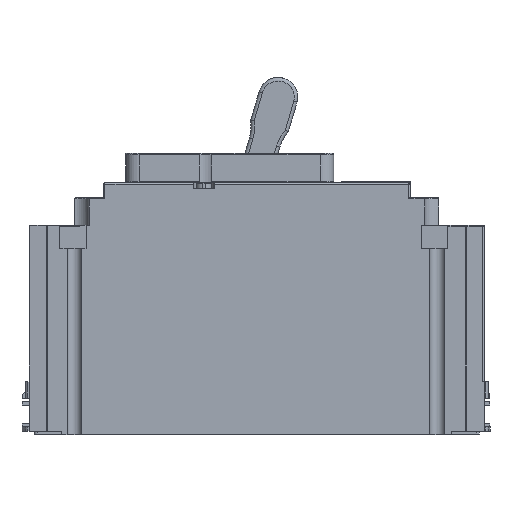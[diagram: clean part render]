
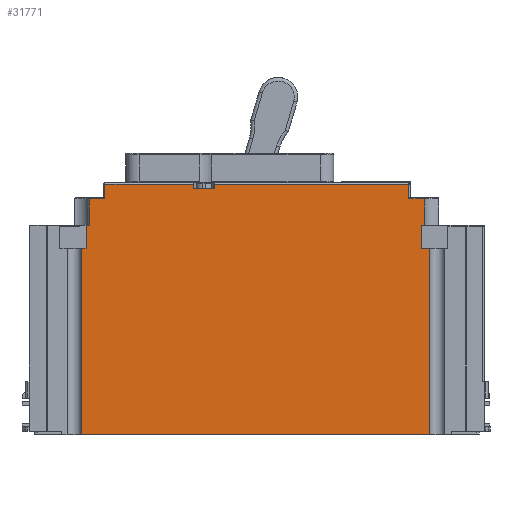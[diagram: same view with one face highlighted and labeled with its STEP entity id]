
A CAD part, left-side view. The second image highlights one B-rep face of the part: STEP entity #31771.
In plain terms, the highlighted planar face has unit normal (-1, 0, 0).
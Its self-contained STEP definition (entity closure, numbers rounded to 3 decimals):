
#1190=DIRECTION('',(0.,0.,1.));
#1191=VECTOR('',#1190,63.88);
#1192=CARTESIAN_POINT('',(0.,21.14,0.));
#1193=LINE('',#1192,#1191);
#1204=DIRECTION('',(0.,1.,0.));
#1205=VECTOR('',#1204,2.813);
#1206=CARTESIAN_POINT('',(0.,21.14,63.88));
#1207=LINE('',#1206,#1205);
#1232=DIRECTION('',(0.,1.,0.));
#1233=VECTOR('',#1232,0.997);
#1234=CARTESIAN_POINT('',(0.,22.956,71.88));
#1235=LINE('',#1234,#1233);
#1236=DIRECTION('',(0.,0.,-1.));
#1237=VECTOR('',#1236,8.);
#1238=CARTESIAN_POINT('',(0.,23.953,71.88));
#1239=LINE('',#1238,#1237);
#1240=DIRECTION('',(0.,1.,0.));
#1241=VECTOR('',#1240,119.5);
#1242=CARTESIAN_POINT('',(0.,21.14,0.));
#1243=LINE('',#1242,#1241);
#1244=DIRECTION('',(0.,0.,1.));
#1245=VECTOR('',#1244,8.);
#1246=CARTESIAN_POINT('',(0.,139.103,63.88));
#1247=LINE('',#1246,#1245);
#1260=DIRECTION('',(0.,1.,0.));
#1261=VECTOR('',#1260,5.428);
#1262=CARTESIAN_POINT('',(0.,132.643,80.83));
#1263=LINE('',#1262,#1261);
#1336=DIRECTION('',(0.,0.,-1.));
#1337=VECTOR('',#1336,8.95);
#1338=CARTESIAN_POINT('',(0.,138.07,80.83));
#1339=LINE('',#1338,#1337);
#1381=DIRECTION('',(0.,1.,0.));
#1382=VECTOR('',#1381,1.537);
#1383=CARTESIAN_POINT('',(0.,139.103,63.88));
#1384=LINE('',#1383,#1382);
#11738=DIRECTION('',(0.,0.,1.));
#11739=VECTOR('',#11738,8.95);
#11740=CARTESIAN_POINT('',(0.,22.956,71.88));
#11741=LINE('',#11740,#11739);
#11760=DIRECTION('',(0.,1.,0.));
#11761=VECTOR('',#11760,5.428);
#11762=CARTESIAN_POINT('',(0.,22.956,80.83));
#11763=LINE('',#11762,#11761);
#11784=DIRECTION('',(0.,0.,1.));
#11785=VECTOR('',#11784,5.);
#11786=CARTESIAN_POINT('',(0.,28.383,80.83));
#11787=LINE('',#11786,#11785);
#11811=DIRECTION('',(0.,1.,0.));
#11812=VECTOR('',#11811,66.72);
#11813=CARTESIAN_POINT('',(0.,28.383,85.83));
#11814=LINE('',#11813,#11812);
#11820=DIRECTION('',(0.,0.,-1.));
#11821=VECTOR('',#11820,1.5);
#11822=CARTESIAN_POINT('',(0.,95.103,85.83));
#11823=LINE('',#11822,#11821);
#11832=DIRECTION('',(0.,1.,0.));
#11833=VECTOR('',#11832,7.);
#11834=CARTESIAN_POINT('',(0.,95.103,84.33));
#11835=LINE('',#11834,#11833);
#11899=DIRECTION('',(0.,0.,1.));
#11900=VECTOR('',#11899,1.5);
#11901=CARTESIAN_POINT('',(0.,102.103,84.33));
#11902=LINE('',#11901,#11900);
#11903=DIRECTION('',(0.,1.,0.));
#11904=VECTOR('',#11903,30.54);
#11905=CARTESIAN_POINT('',(0.,102.103,85.83));
#11906=LINE('',#11905,#11904);
#11930=DIRECTION('',(0.,0.,-1.));
#11931=VECTOR('',#11930,5.);
#11932=CARTESIAN_POINT('',(0.,132.643,85.83));
#11933=LINE('',#11932,#11931);
#23566=DIRECTION('',(0.,0.,-1.));
#23567=VECTOR('',#23566,63.88);
#23568=CARTESIAN_POINT('',(0.,140.64,63.88));
#23569=LINE('',#23568,#23567);
#23574=DIRECTION('',(0.,1.,0.));
#23575=VECTOR('',#23574,1.033);
#23576=CARTESIAN_POINT('',(0.,138.07,
71.88));
#23577=LINE('',#23576,#23575);
#23921=CARTESIAN_POINT('',(0.,140.64,0.));
#23922=VERTEX_POINT('',#23921);
#23923=CARTESIAN_POINT('',(0.,21.14,0.));
#23924=VERTEX_POINT('',#23923);
#24243=CARTESIAN_POINT('',(0.,21.14,63.88));
#24245=VERTEX_POINT('',#24243);
#24246=CARTESIAN_POINT('',(0.,23.953,63.88));
#24247=VERTEX_POINT('',#24246);
#24256=CARTESIAN_POINT('',(0.,132.643,80.83));
#24257=CARTESIAN_POINT('',(0.,138.07,80.83));
#24258=VERTEX_POINT('',#24256);
#24259=VERTEX_POINT('',#24257);
#24260=CARTESIAN_POINT('',(0.,132.643,85.83));
#24261=VERTEX_POINT('',#24260);
#24262=CARTESIAN_POINT('',(0.,102.103,85.83));
#24263=VERTEX_POINT('',#24262);
#24264=CARTESIAN_POINT('',(0.,102.103,84.33));
#24265=VERTEX_POINT('',#24264);
#24266=CARTESIAN_POINT('',(0.,95.103,84.33));
#24267=VERTEX_POINT('',#24266);
#24268=CARTESIAN_POINT('',(0.,95.103,85.83));
#24269=VERTEX_POINT('',#24268);
#24270=CARTESIAN_POINT('',(0.,28.383,85.83));
#24271=VERTEX_POINT('',#24270);
#24272=CARTESIAN_POINT('',(0.,28.383,80.83));
#24273=VERTEX_POINT('',#24272);
#24274=CARTESIAN_POINT('',(0.,22.956,80.83));
#24275=VERTEX_POINT('',#24274);
#24276=CARTESIAN_POINT('',(0.,22.956,71.88));
#24277=VERTEX_POINT('',#24276);
#24278=CARTESIAN_POINT('',(0.,23.953,71.88));
#24279=VERTEX_POINT('',#24278);
#24280=CARTESIAN_POINT('',(0.,140.64,63.88));
#24281=VERTEX_POINT('',#24280);
#24282=CARTESIAN_POINT('',(0.,139.103,63.88));
#24283=VERTEX_POINT('',#24282);
#24284=CARTESIAN_POINT('',(0.,139.103,71.88));
#24285=VERTEX_POINT('',#24284);
#24286=CARTESIAN_POINT('',(0.,138.07,
71.88));
#24287=VERTEX_POINT('',#24286);
#31727=CARTESIAN_POINT('',(0.,80.89,42.915));
#31728=DIRECTION('',(1.,0.,0.));
#31729=DIRECTION('',(0.,-1.,0.));
#31730=AXIS2_PLACEMENT_3D('',#31727,#31728,#31729);
#31731=PLANE('',#31730);
#31733=ORIENTED_EDGE('',*,*,#31732,.F.);
#31735=ORIENTED_EDGE('',*,*,#31734,.F.);
#31737=ORIENTED_EDGE('',*,*,#31736,.F.);
#31739=ORIENTED_EDGE('',*,*,#31738,.F.);
#31741=ORIENTED_EDGE('',*,*,#31740,.F.);
#31743=ORIENTED_EDGE('',*,*,#31742,.F.);
#31745=ORIENTED_EDGE('',*,*,#31744,.F.);
#31747=ORIENTED_EDGE('',*,*,#31746,.F.);
#31749=ORIENTED_EDGE('',*,*,#31748,.F.);
#31751=ORIENTED_EDGE('',*,*,#31750,.F.);
#31753=ORIENTED_EDGE('',*,*,#31752,.T.);
#31755=ORIENTED_EDGE('',*,*,#31754,.T.);
#31756=ORIENTED_EDGE('',*,*,#31711,.F.);
#31757=ORIENTED_EDGE('',*,*,#31699,.F.);
#31758=ORIENTED_EDGE('',*,*,#30283,.T.);
#31760=ORIENTED_EDGE('',*,*,#31759,.F.);
#31762=ORIENTED_EDGE('',*,*,#31761,.F.);
#31764=ORIENTED_EDGE('',*,*,#31763,.T.);
#31766=ORIENTED_EDGE('',*,*,#31765,.F.);
#31768=ORIENTED_EDGE('',*,*,#31767,.F.);
#31769=EDGE_LOOP('',(#31733,#31735,#31737,#31739,#31741,#31743,#31745,#31747,
#31749,#31751,#31753,#31755,#31756,#31757,#31758,#31760,#31762,#31764,#31766,
#31768));
#31770=FACE_OUTER_BOUND('',#31769,.F.);
#31771=ADVANCED_FACE('',(#31770),#31731,.F.);
#30283=EDGE_CURVE('',#23924,#23922,#1243,.T.);
#31699=EDGE_CURVE('',#23924,#24245,#1193,.T.);
#31711=EDGE_CURVE('',#24245,#24247,#1207,.T.);
#31732=EDGE_CURVE('',#24258,#24259,#1263,.T.);
#31734=EDGE_CURVE('',#24261,#24258,#11933,.T.);
#31736=EDGE_CURVE('',#24263,#24261,#11906,.T.);
#31738=EDGE_CURVE('',#24265,#24263,#11902,.T.);
#31740=EDGE_CURVE('',#24267,#24265,#11835,.T.);
#31742=EDGE_CURVE('',#24269,#24267,#11823,.T.);
#31744=EDGE_CURVE('',#24271,#24269,#11814,.T.);
#31746=EDGE_CURVE('',#24273,#24271,#11787,.T.);
#31748=EDGE_CURVE('',#24275,#24273,#11763,.T.);
#31750=EDGE_CURVE('',#24277,#24275,#11741,.T.);
#31752=EDGE_CURVE('',#24277,#24279,#1235,.T.);
#31754=EDGE_CURVE('',#24279,#24247,#1239,.T.);
#31759=EDGE_CURVE('',#24281,#23922,#23569,.T.);
#31761=EDGE_CURVE('',#24283,#24281,#1384,.T.);
#31763=EDGE_CURVE('',#24283,#24285,#1247,.T.);
#31765=EDGE_CURVE('',#24287,#24285,#23577,.T.);
#31767=EDGE_CURVE('',#24259,#24287,#1339,.T.);
